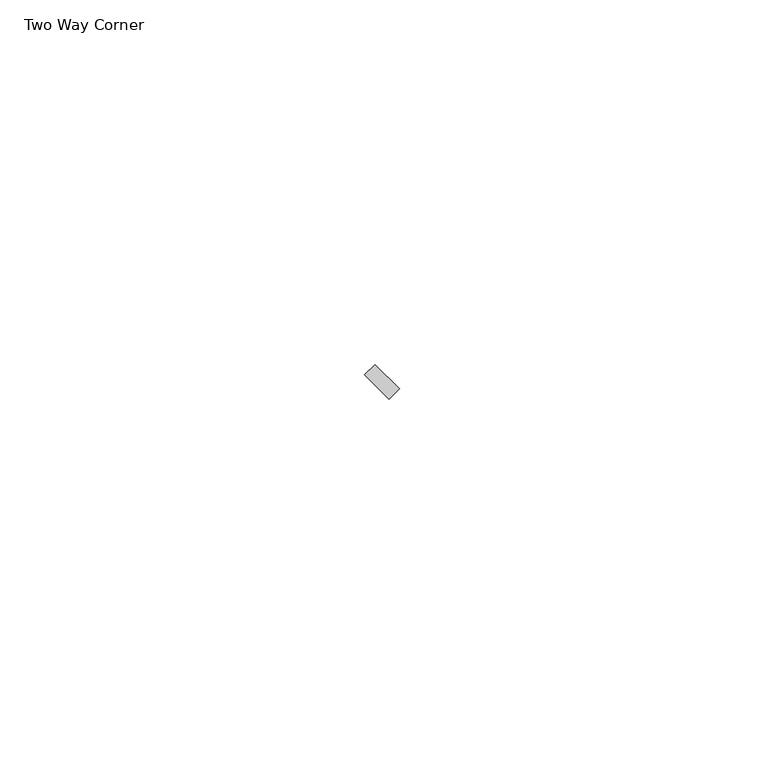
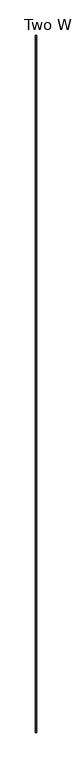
"""IFC4 building model written with IfcOpenShell, lengths in millimetres: proxy geometry, Connection-Corner-Teknion-OptosLP-Two_Way_FZCY2 : Two Way Corner."""

from ifc_helpers import new_model, si_unit, origin, origin_with_axes, place, context, project, spatial, polyline, outline, extrude, source, transform, mapped, element, save


def two_way_corner_f22c8f03(model_context):
    return source(origin(), model_context, "Body", "SweptSolid", [
        extrude(outline(polyline([(-3.5262378, 4.9630787), (-0.2030562, 1.6398972), (-1.6398972, 0.2030562), (-4.9886183, 3.5517773), (-3.5262378, 4.9630787)])), origin_with_axes(), (0.0, 0.0, 1.0), 3048.0),
    ])


if __name__ == "__main__":
    model = new_model("IFC4")
    model_context = context("Model", 3, world=origin())
    ifc_project = project(units=[si_unit("LENGTHUNIT", "METRE", prefix="MILLI")], contexts=[model_context])
    site = spatial("IfcSite", under=ifc_project)
    building = spatial("IfcBuilding", under=site)
    placement = place(None, origin())
    two_way_corner_shape = two_way_corner_f22c8f03(model_context)
    element("IfcBuildingElementProxy", 1, Name="Connection-Corner-Teknion-OptosLP-Two_Way_FZCY2 : Two Way Corner", ObjectType="Connection-Corner-Teknion-OptosLP-Two_Way_FZCY2 : Two Way Corner", at=placement, inside=building, context=model_context, shape_type="MappedRepresentation", body=[
        mapped(two_way_corner_shape, transform((0.0, 0.0, 0.0), x_axis=(1.0, 0.0, 0.0), y_axis=(0.0, 1.0, 0.0), z_axis=(0.0, 0.0, 1.0))),
    ])
    save(model, "model.ifc")
